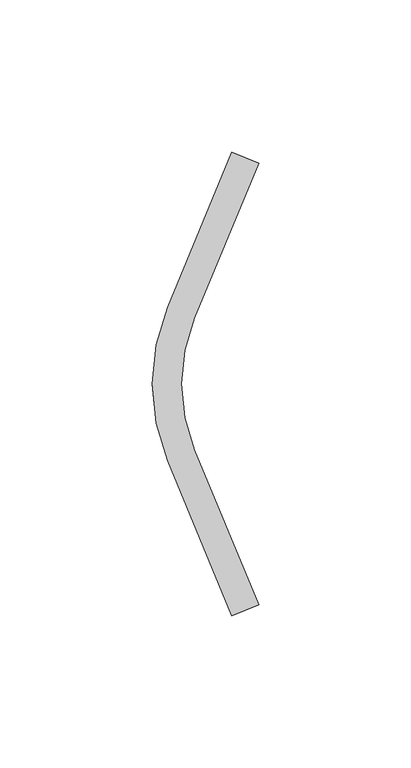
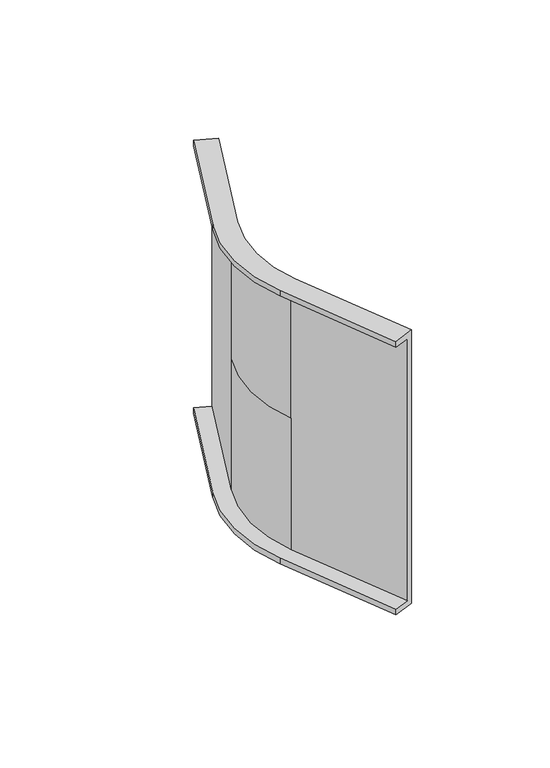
"""IFC4 building model written with IfcOpenShell, lengths in millimetres: cable carrier fitting geometry, CCT_Hyperline_FBTR-IRS45-CVR Крышка на вертикальный угол 45° внутренний (вверх) для оптического лотка : Крышка на вертикальный угол 45° внутренний (вверх) для оптического лотка."""

from ifc_helpers import new_model, si_unit, frame, origin, place, context, project, spatial, polyline, circle_curve, source, transform, mapped, element, save
from ifc_brep_helpers import plane_surface, cylinder_surface, revolved_surface, advanced_brep


def cable_carrier_fitting_f618252d(model_context):
    return source(origin(), model_context, "Body", "AdvancedBrep", [
        advanced_brep(
        [(117.653346, 73.3916968, 60.0), (111.1861893, 76.0704808, 60.0), (111.1861893, 76.0704808, 62.54), (120.0, 72.4196809, 62.54), (120.0, 72.4196809, -62.54), (111.1861893, 76.0704808, -62.54), (111.1861893, 76.0704808, -60.0), (117.653346, 73.3916968, -60.0), (90.1386005, 25.2571065, -60.0), (90.1386005, -25.2571065, -60.0), (111.1861893, -76.0704808, -60.0), (117.653346, -73.3916968, -60.0), (96.6057572, -22.5783225, -60.0), (96.6057572, 22.5783225, -60.0), (90.1386005, 25.2571065, -62.54), (98.9524112, 21.6063066, -62.54), (98.9524112, -21.6063066, -62.54), (120.0, -72.4196809, -62.54), (111.1861893, -76.0704808, -62.54), (90.1386005, -25.2571065, -62.54), (98.9524112, 21.6063066, 62.54), (98.9524112, 21.6063066, 0.0), (96.6057572, 22.5783225, 0.0), (96.6057572, 22.5783225, 60.0), (120.0, -72.4196809, 62.54), (111.1861893, -76.0704808, 62.54), (111.1861893, -76.0704808, 60.0), (117.653346, -73.3916968, 60.0), (98.9524112, -21.6063066, 0.0), (96.6057572, -22.5783225, 0.0), (98.9524112, -21.6063066, 62.54), (96.6057572, -22.5783225, 60.0), (90.1386005, -25.2571065, 60.0), (90.1386005, 25.2571065, 60.0), (90.1386005, 25.2571065, 62.54), (90.1386005, -25.2571065, 62.54)],
        [
            (0, 1),
            (1, 2),
            (2, 3),
            (3, 4),
            (4, 5),
            (5, 6),
            (6, 7),
            (7, 0),
            (6, 8),
            (8, 9, circle_curve(frame((151.1146496, 0.0, -60.0), z_axis=(0.0, 0.0, 1.0), x_axis=(-0.9238795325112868, 0.38268343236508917, 0.0)), 66.0)),
            (9, 10),
            (10, 11),
            (11, 12),
            (12, 13, circle_curve(frame((151.1146496, 0.0, -60.0), z_axis=(0.0, 0.0, -1.0), x_axis=(-0.9238795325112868, 0.38268343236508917, 0.0)), 59.0)),
            (13, 7),
            (5, 14),
            (14, 8),
            (4, 15),
            (15, 16, circle_curve(frame((151.1146496, 0.0, -62.54), z_axis=(0.0, 0.0, 1.0), x_axis=(-0.9238795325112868, 0.38268343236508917, 0.0)), 56.46)),
            (16, 17),
            (17, 18),
            (18, 19),
            (19, 14, circle_curve(frame((151.1146496, 0.0, -62.54), z_axis=(0.0, 0.0, -1.0), x_axis=(-0.9238795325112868, 0.38268343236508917, 0.0)), 66.0)),
            (3, 20),
            (20, 21),
            (21, 15),
            (13, 22),
            (22, 23),
            (23, 0),
            (10, 18),
            (17, 24),
            (24, 25),
            (25, 26),
            (26, 27),
            (27, 11),
            (19, 9),
            (21, 28, circle_curve(frame((151.1146496, 0.0, 0.0), z_axis=(0.0, 0.0, 1.0), x_axis=(-0.9238795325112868, 0.38268343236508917, 0.0)), 56.46)),
            (28, 16),
            (12, 29),
            (29, 22, circle_curve(frame((151.1146496, 0.0, 0.0), z_axis=(0.0, 0.0, -1.0), x_axis=(-0.9238795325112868, 0.38268343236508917, 0.0)), 59.0)),
            (28, 30),
            (30, 24),
            (27, 31),
            (31, 29),
            (23, 31, circle_curve(frame((151.1146496, 0.0, 60.0), z_axis=(0.0, 0.0, 1.0), x_axis=(-0.9238795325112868, 0.38268343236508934, 0.0)), 59.0)),
            (26, 32),
            (32, 33, circle_curve(frame((151.1146496, 0.0, 60.0), z_axis=(0.0, 0.0, -1.0), x_axis=(-0.9238795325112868, 0.38268343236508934, 0.0)), 66.0)),
            (33, 1),
            (33, 34),
            (34, 2),
            (34, 35, circle_curve(frame((151.1146496, 0.0, 62.54), z_axis=(0.0, 0.0, 1.0), x_axis=(-0.9238795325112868, 0.38268343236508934, 0.0)), 66.0)),
            (35, 25),
            (30, 20, circle_curve(frame((151.1146496, 0.0, 62.54), z_axis=(0.0, 0.0, -1.0), x_axis=(-0.9238795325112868, 0.38268343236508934, 0.0)), 56.46)),
            (32, 35),
        ],
        [
            plane_surface(frame((115.8055869, 74.1570637, -55.0), z_axis=(0.38268343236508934, 0.923879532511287, 0.0), x_axis=(0.0, 0.0, 1.0))),
            plane_surface(frame((111.1861893, 76.0704808, -60.0), z_axis=(0.0, 0.0, 1.0), x_axis=(-0.3826834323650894, -0.923879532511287, 0.0))),
            plane_surface(frame((111.1861893, 76.0704808, -62.54), z_axis=(-0.923879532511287, 0.3826834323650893, 0.0), x_axis=(-0.3826834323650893, -0.923879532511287, 0.0))),
            plane_surface(frame((120.0, 72.4196809, -62.54), z_axis=(0.0, 0.0, -1.0), x_axis=(-0.3826834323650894, -0.923879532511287, 0.0))),
            plane_surface(frame((120.0, 72.4196809, 0.0), z_axis=(0.923879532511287, -0.3826834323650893, 0.0), x_axis=(-0.3826834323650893, -0.923879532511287, 0.0))),
            plane_surface(frame((117.653346, 73.3916968, -60.0), z_axis=(-0.923879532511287, 0.3826834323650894, 0.0), x_axis=(-0.3826834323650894, -0.923879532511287, 0.0))),
            plane_surface(frame((115.8055869, -74.1570637, -55.0), z_axis=(0.38268343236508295, -0.9238795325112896, 0.0), x_axis=(0.0, 0.0, 1.0))),
            cylinder_surface(frame((151.1146496, 0.0, -55.0), z_axis=(0.0, 0.0, 1.0), x_axis=(-0.9238795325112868, 0.38268343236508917, 0.0)), 66.0),
            revolved_surface(polyline([(98.95241119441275, 21.606306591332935, 0.0), (98.95241119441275, 21.606306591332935, -62.54)]), (151.1146496, 0.0, -55.0), (0.0, 0.0, 1.0)),
            cylinder_surface(frame((151.1146496, 0.0, -55.0), z_axis=(0.0, 0.0, 1.0), x_axis=(-0.9238795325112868, 0.38268343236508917, 0.0)), 59.0),
            plane_surface(frame((90.1386005, -25.2571065, -62.54), z_axis=(-0.9238795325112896, -0.38268343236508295, 0.0), x_axis=(0.38268343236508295, -0.9238795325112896, 0.0))),
            plane_surface(frame((98.9524112, -21.6063066, 0.0), z_axis=(0.9238795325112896, 0.38268343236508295, 0.0), x_axis=(0.38268343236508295, -0.9238795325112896, 0.0))),
            plane_surface(frame((96.6057572, -22.5783225, -60.0), z_axis=(-0.9238795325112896, -0.38268343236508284, 0.0), x_axis=(0.38268343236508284, -0.9238795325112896, 0.0))),
            plane_surface(frame((117.653346, 73.3916968, 60.0), z_axis=(0.0, 0.0, -1.0), x_axis=(-0.3826834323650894, -0.923879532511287, 0.0))),
            plane_surface(frame((111.1861893, 76.0704808, 60.0), z_axis=(-0.923879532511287, 0.3826834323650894, 0.0), x_axis=(-0.3826834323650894, -0.923879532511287, 0.0))),
            plane_surface(frame((111.1861893, 76.0704808, 62.54), z_axis=(0.0, 0.0, 1.0), x_axis=(-0.3826834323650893, -0.923879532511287, 0.0))),
            cylinder_surface(frame((151.1146496, 0.0, 60.0), z_axis=(0.0, 0.0, 1.0), x_axis=(-0.9238795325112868, 0.38268343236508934, 0.0)), 66.0),
            revolved_surface(polyline([(98.95241119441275, 21.606306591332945, 62.54), (98.95241119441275, 21.606306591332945, 0.0)]), (151.1146496, 0.0, 60.0), (0.0, 0.0, 1.0)),
            cylinder_surface(frame((151.1146496, 0.0, 60.0), z_axis=(0.0, 0.0, 1.0), x_axis=(-0.9238795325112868, 0.38268343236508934, 0.0)), 59.0),
            plane_surface(frame((90.1386005, -25.2571065, 60.0), z_axis=(-0.92387953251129, -0.3826834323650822, 0.0), x_axis=(0.3826834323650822, -0.92387953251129, 0.0))),
        ],
        [
            (0, [[1, 2, 3, 4, 5, 6, 7, 8]]),
            (1, [[-7, 9, 10, 11, 12, 13, 14, 15]]),
            (2, [[-6, 16, 17, -9]]),
            (3, [[-5, 18, 19, 20, 21, 22, 23, -16]]),
            (4, [[-4, 24, 25, 26, -18]]),
            (5, [[-8, -15, 27, 28, 29]]),
            (6, [[-12, 30, -21, 31, 32, 33, 34, 35]]),
            (7, [[-10, -17, -23, 36]]),
            (8, [[-19, -26, 37, 38]]),
            (9, [[-14, 39, 40, -27]]),
            (10, [[-11, -36, -22, -30]]),
            (11, [[-31, -20, -38, 41, 42]]),
            (12, [[-13, -35, 43, 44, -39]]),
            (13, [[-1, -29, 45, -43, -34, 46, 47, 48]]),
            (14, [[-2, -48, 49, 50]]),
            (15, [[-3, -50, 51, 52, -32, -42, 53, -24]]),
            (16, [[-47, 54, -51, -49]]),
            (17, [[-53, -41, -37, -25]]),
            (18, [[-45, -28, -40, -44]]),
            (19, [[-46, -33, -52, -54]]),
        ],
    ),
    ])


if __name__ == "__main__":
    model = new_model("IFC4")
    model_context = context("Model", 3, world=origin())
    ifc_project = project(units=[si_unit("LENGTHUNIT", "METRE", prefix="MILLI")], contexts=[model_context])
    site = spatial("IfcSite", under=ifc_project)
    building = spatial("IfcBuilding", under=site)
    placement = place(None, origin())
    cable_carrier_fitting_shape = cable_carrier_fitting_f618252d(model_context)
    element("IfcCableCarrierFitting", 1, ObjectType="CCT_Hyperline_FBTR-IRS45-CVR Крышка на вертикальный угол 45° внутренний (вверх) для оптического лотка : Крышка на вертикальный угол 45° внутренний (вверх) для оптического лотка", at=placement, inside=building, context=model_context, shape_type="MappedRepresentation", body=[
        mapped(cable_carrier_fitting_shape, transform((0.0, 0.0, 0.0), x_axis=(1.0, 0.0, 0.0), y_axis=(0.0, 1.0, 0.0), z_axis=(0.0, 0.0, 1.0))),
    ])
    save(model, "model.ifc")
